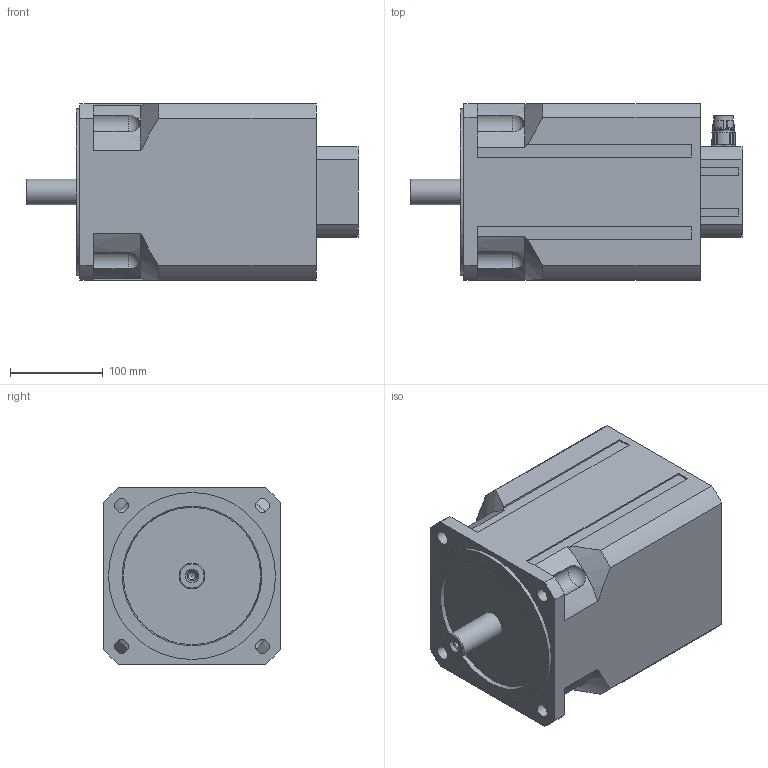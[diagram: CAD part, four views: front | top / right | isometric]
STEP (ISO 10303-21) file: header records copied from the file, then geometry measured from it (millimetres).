
FILE_DESCRIPTION(/* description */ (''),/* implementation_level */ '2;1');
FILE_NAME(/* name */ 'C:\PDF_output\N7028 00 B Z_5000_8P_12P.stp',/* time_stamp */ '2017-06-29T09:14:12+02:00',/* author */ ('oslejsek'),/* organization */ (''),/* preprocessor_version */ 'ST-DEVELOPER v16.13',/* originating_system */ 'Autodesk Inventor 2018',/* authorisation */ '');
FILE_SCHEMA (('AUTOMOTIVE_DESIGN { 1 0 10303 214 3 1 1 }'));
Length unit declared in the file: millimetre
Products named in the file (4): N7028 00 B Z_5000_8P_12P; N7028 00 B_5000; 127331; 127344
Assembly tree (3 placements, depth 2):
  N7028 00 B Z_5000_8P_12P
    N7028 00 B_5000
    127331
    127344
Bounding box: 358 x 190 x 190 mm (x, y, z)
Volume: 9313238.4 mm3; surface area: 301164.4 mm2
Topology: 3 solids, 3 shells, 1045 faces, 2730 edges, 1737 vertices
Faces by surface type: cylinder 351, plane 311, bspline 164, torus 109, cone 79, sphere 31
Full cylindrical faces by diameter (mm): 1 x16, 1.18 x12, 1.3 x4, 2 x4, 2.013 x8, 2.15 x4, 2.7 x8, 3 x4, 5.8 x1, 6.8 x1, 8.376 x1, 10.5 x1, 15 x4, 17.1 x1, 17.4 x1, 17.7 x1, 19.8 x1, 20 x2, 21.15 x2, 21.5 x1, 21.6 x1, 28 x1, 180 x1
Entity records: 39157 total; most frequent: CARTESIAN_POINT 13615, DIRECTION 5241, ORIENTED_EDGE 4974, EDGE_CURVE 2487, AXIS2_PLACEMENT_3D 2180, VERTEX_POINT 1646, EDGE_LOOP 1259, CIRCLE 1167
